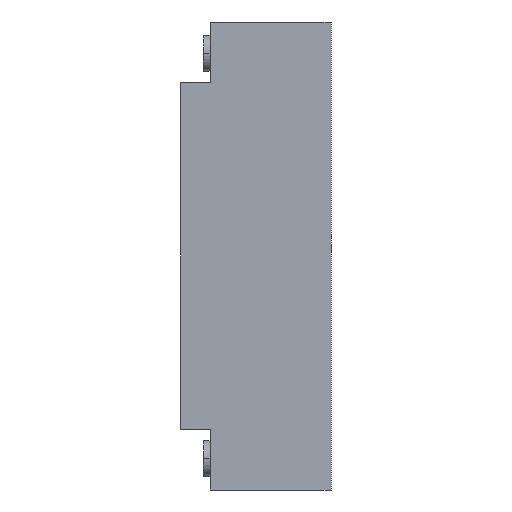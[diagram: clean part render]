
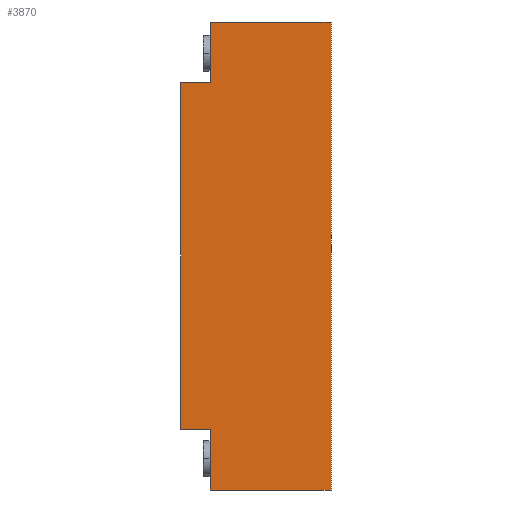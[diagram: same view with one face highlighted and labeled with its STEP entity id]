
A CAD part, left-side view. The second image highlights one B-rep face of the part: STEP entity #3870.
In plain terms, the highlighted planar face has unit normal (-1, 0, 0).
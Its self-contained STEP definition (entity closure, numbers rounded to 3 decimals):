
#1=DIRECTION('',(0.,1.,0.));
#2=VECTOR('',#1,34.9);
#3=CARTESIAN_POINT('',(-276.1,0.,-67.5));
#4=LINE('',#3,#2);
#5=DIRECTION('',(0.,0.,1.));
#6=VECTOR('',#5,17.5);
#7=CARTESIAN_POINT('',(-276.1,34.9,-67.5));
#8=LINE('',#7,#6);
#9=DIRECTION('',(0.,1.,0.));
#10=VECTOR('',#9,8.4);
#11=CARTESIAN_POINT('',(-276.1,34.9,-50.));
#12=LINE('',#11,#10);
#13=DIRECTION('',(0.,0.,1.));
#14=VECTOR('',#13,100.);
#15=CARTESIAN_POINT('',(-276.1,43.3,-50.));
#16=LINE('',#15,#14);
#17=DIRECTION('',(0.,-1.,0.));
#18=VECTOR('',#17,8.4);
#19=CARTESIAN_POINT('',(-276.1,43.3,50.));
#20=LINE('',#19,#18);
#21=DIRECTION('',(0.,0.,1.));
#22=VECTOR('',#21,17.5);
#23=CARTESIAN_POINT('',(-276.1,34.9,50.));
#24=LINE('',#23,#22);
#25=DIRECTION('',(0.,-1.,0.));
#26=VECTOR('',#25,34.9);
#27=CARTESIAN_POINT('',(-276.1,34.9,67.5));
#28=LINE('',#27,#26);
#29=DIRECTION('',(0.,0.,-1.));
#30=VECTOR('',#29,135.);
#31=CARTESIAN_POINT('',(-276.1,0.,67.5));
#32=LINE('',#31,#30);
#2941=CARTESIAN_POINT('',(-276.1,0.,-67.5));
#2942=CARTESIAN_POINT('',(-276.1,34.9,-67.5));
#2943=VERTEX_POINT('',#2941);
#2944=VERTEX_POINT('',#2942);
#2945=CARTESIAN_POINT('',(-276.1,34.9,-50.));
#2946=VERTEX_POINT('',#2945);
#2947=CARTESIAN_POINT('',(-276.1,43.3,-50.));
#2948=VERTEX_POINT('',#2947);
#2949=CARTESIAN_POINT('',(-276.1,43.3,50.));
#2950=VERTEX_POINT('',#2949);
#2951=CARTESIAN_POINT('',(-276.1,34.9,50.));
#2952=VERTEX_POINT('',#2951);
#2953=CARTESIAN_POINT('',(-276.1,34.9,67.5));
#2954=VERTEX_POINT('',#2953);
#2955=CARTESIAN_POINT('',(-276.1,0.,67.5));
#2956=VERTEX_POINT('',#2955);
#3847=CARTESIAN_POINT('',(-276.1,0.,0.));
#3848=DIRECTION('',(1.,0.,0.));
#3849=DIRECTION('',(0.,-1.,0.));
#3850=AXIS2_PLACEMENT_3D('',#3847,#3848,#3849);
#3851=PLANE('',#3850);
#3853=ORIENTED_EDGE('',*,*,#3852,.T.);
#3855=ORIENTED_EDGE('',*,*,#3854,.T.);
#3857=ORIENTED_EDGE('',*,*,#3856,.T.);
#3859=ORIENTED_EDGE('',*,*,#3858,.T.);
#3861=ORIENTED_EDGE('',*,*,#3860,.T.);
#3863=ORIENTED_EDGE('',*,*,#3862,.T.);
#3865=ORIENTED_EDGE('',*,*,#3864,.T.);
#3867=ORIENTED_EDGE('',*,*,#3866,.T.);
#3868=EDGE_LOOP('',(#3853,#3855,#3857,#3859,#3861,#3863,#3865,#3867));
#3869=FACE_OUTER_BOUND('',#3868,.F.);
#3870=ADVANCED_FACE('',(#3869),#3851,.F.);
#3852=EDGE_CURVE('',#2943,#2944,#4,.T.);
#3854=EDGE_CURVE('',#2944,#2946,#8,.T.);
#3856=EDGE_CURVE('',#2946,#2948,#12,.T.);
#3858=EDGE_CURVE('',#2948,#2950,#16,.T.);
#3860=EDGE_CURVE('',#2950,#2952,#20,.T.);
#3862=EDGE_CURVE('',#2952,#2954,#24,.T.);
#3864=EDGE_CURVE('',#2954,#2956,#28,.T.);
#3866=EDGE_CURVE('',#2956,#2943,#32,.T.);
